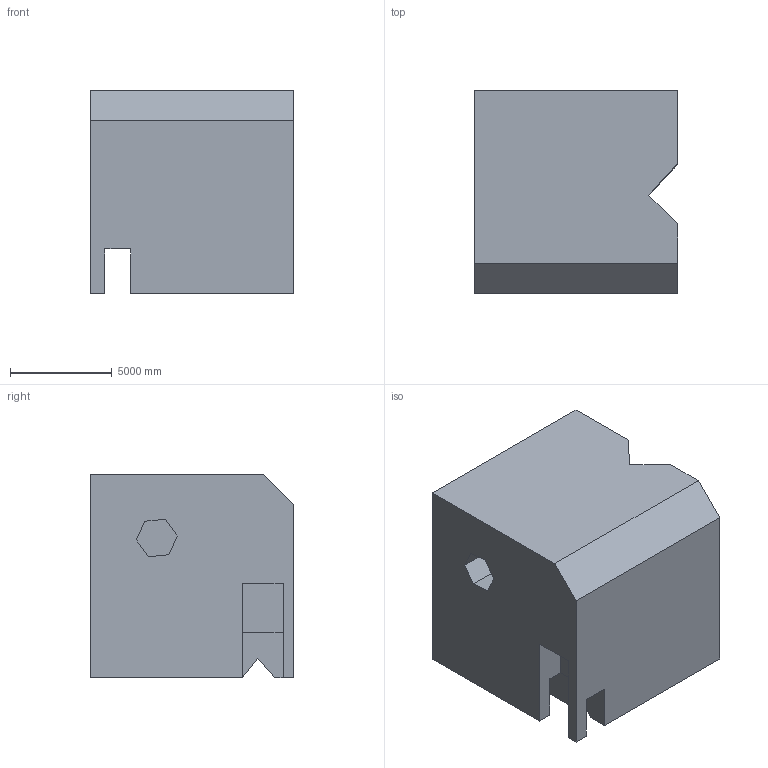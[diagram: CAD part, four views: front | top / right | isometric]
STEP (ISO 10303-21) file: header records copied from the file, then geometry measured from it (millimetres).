
FILE_DESCRIPTION (( 'STEP AP203' ), '1' );
FILE_NAME ('1710.STEP', '2022-08-19T11:57:03', ( 'user' ), ( '' ), 'SwSTEP 2.0', 'SolidWorks 2021', '' );
FILE_SCHEMA (( 'CONFIG_CONTROL_DESIGN' ));
Length unit declared in the file: centimetre
Products named in the file (1): 1710
Bounding box: 10000 x 10000 x 10000 mm (x, y, z)
Volume: 888621065336.3 mm3; surface area: 701664967.1 mm2
Topology: 1 solids, 1 shells, 39 faces, 108 edges, 72 vertices
Faces by surface type: plane 34, cylinder 5
Entity records: 1308 total; most frequent: CARTESIAN_POINT 229, ORIENTED_EDGE 216, DIRECTION 194, EDGE_CURVE 108, LINE 96, VECTOR 96, VERTEX_POINT 72, AXIS2_PLACEMENT_3D 49
